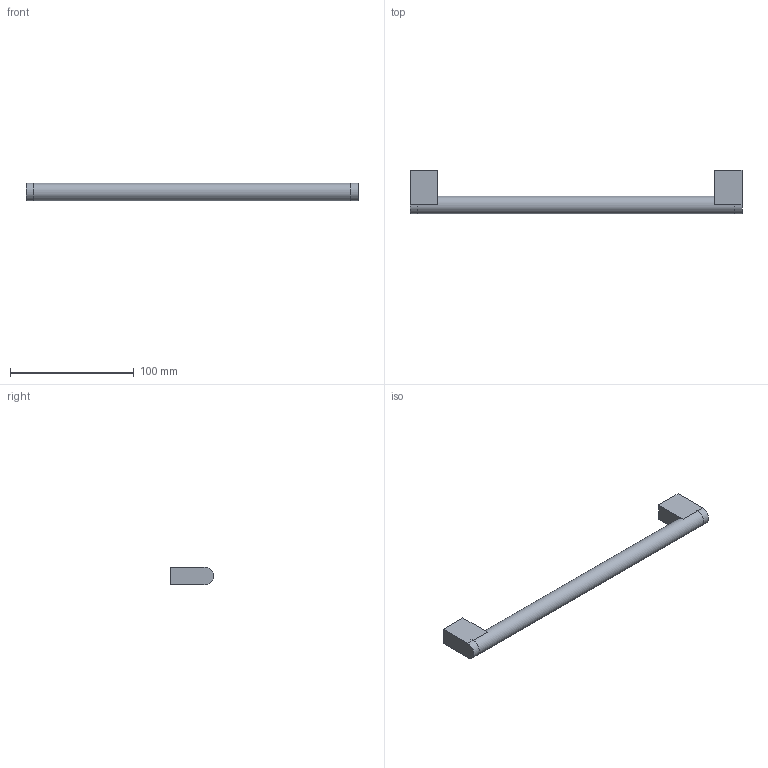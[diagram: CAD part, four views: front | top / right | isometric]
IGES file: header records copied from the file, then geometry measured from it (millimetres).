
Start section: Data from Parasolid IGES Translator 17.0.49, Copyright(c) 2006 Siemens P LM Software. All Rights Reserved.
Global section: file name: 9070107.igs; native system: By Siemens PLM Incorporated; preprocessor: XPlus GENERIC/IGES 17.0.49; author: Noname; organization: Noname; date: 20181120.154650; units: millimetre
Bounding box: 268 x 35 x 14 mm (x, y, z)
Surface area: 17166.4 mm2 (no closed solid volume)
Topology: 0 solids, 0 shells, 21 faces, 82 edges, 78 vertices
Faces by surface type: extrusion 14, revolution 7
